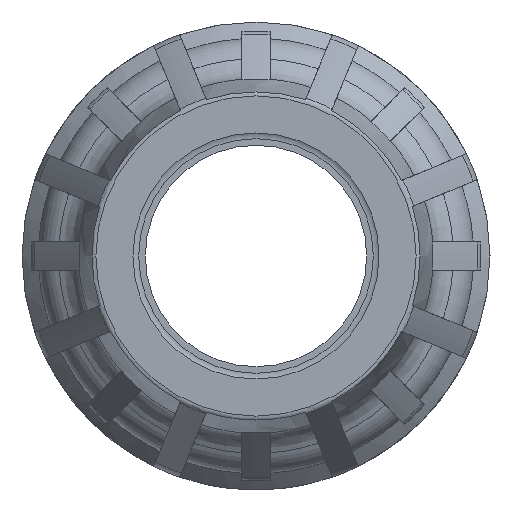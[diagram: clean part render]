
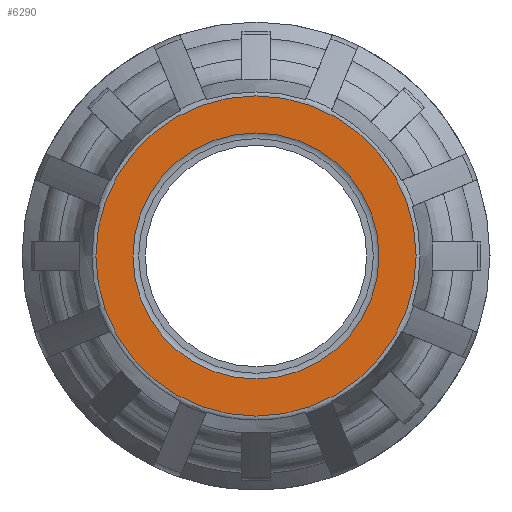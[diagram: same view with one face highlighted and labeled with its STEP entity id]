
A CAD part, left-side view. The second image highlights one B-rep face of the part: STEP entity #6290.
In plain terms, the highlighted planar face has unit normal (-1, 0, 0).
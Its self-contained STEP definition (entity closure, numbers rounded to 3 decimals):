
#90=PLANE('',#6960);
#2792=ORIENTED_EDGE('',*,*,#3977,.F.);
#2793=ORIENTED_EDGE('',*,*,#3994,.F.);
#3977=EDGE_CURVE('',#4711,#4711,#5048,.T.);
#3994=EDGE_CURVE('',#4712,#4712,#5065,.F.);
#4711=VERTEX_POINT('',#11847);
#4712=VERTEX_POINT('',#11882);
#5048=CIRCLE('',#6927,26.688);
#5065=CIRCLE('',#6961,20.5);
#5419=EDGE_LOOP('',(#2792));
#5420=EDGE_LOOP('',(#2793));
#5827=FACE_BOUND('',#5419,.T.);
#5828=FACE_BOUND('',#5420,.T.);
#6290=ADVANCED_FACE('',(#5827,#5828),#90,.F.);
#6927=AXIS2_PLACEMENT_3D('',#11846,#8311,#8312);
#6960=AXIS2_PLACEMENT_3D('',#11880,#8377,#8378);
#6961=AXIS2_PLACEMENT_3D('',#11881,#8379,#8380);
#8311=DIRECTION('',(1.,0.,0.));
#8312=DIRECTION('',(0.,0.,-1.));
#8377=DIRECTION('',(1.,0.,0.));
#8378=DIRECTION('',(0.,0.,-1.));
#8379=DIRECTION('',(1.,0.,0.));
#8380=DIRECTION('',(0.,0.,-1.));
#11846=CARTESIAN_POINT('',(0.,0.,0.));
#11847=CARTESIAN_POINT('',(0.,0.,-26.688));
#11880=CARTESIAN_POINT('',(0.,0.,0.));
#11881=CARTESIAN_POINT('',(0.,0.,0.));
#11882=CARTESIAN_POINT('',(0.,0.,-20.5));
